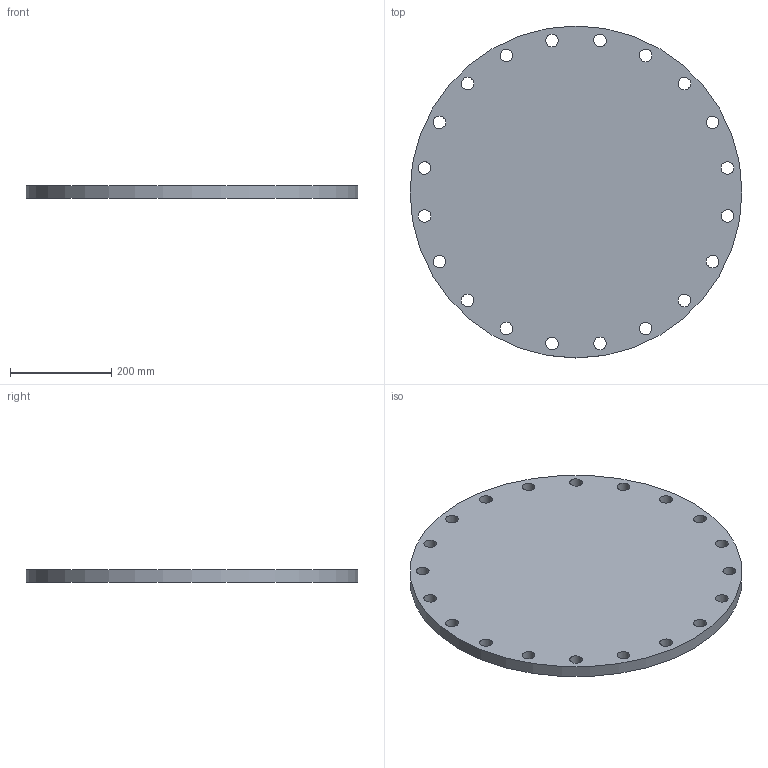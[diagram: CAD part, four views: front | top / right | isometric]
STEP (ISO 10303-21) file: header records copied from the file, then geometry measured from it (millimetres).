
FILE_DESCRIPTION(/* description */ (''),/* implementation_level */ '2;1');
FILE_NAME(/* name */ 'C:\Users\D\Documents\Inventor\HP\JIS\フランジ\JIS 5k bl ff\jis5k-bl-ff-500.stp',/* time_stamp */ '2024-09-12T16:49:18+09:00',/* author */ ('D'),/* organization */ (''),/* preprocessor_version */ 'ST-DEVELOPER v18',/* originating_system */ 'Autodesk Inventor 2020',/* authorisation */ '');
FILE_SCHEMA (('AUTOMOTIVE_DESIGN { 1 0 10303 214 3 1 1 }'));
Length unit declared in the file: millimetre
Products named in the file (1): jis5k-sop-rf-10
Bounding box: 655 x 655 x 24 mm (x, y, z)
Volume: 7851311.3 mm3; surface area: 741360.9 mm2
Topology: 1 solids, 1 shells, 23 faces, 85 edges, 64 vertices
Faces by surface type: cylinder 21, plane 2
Full cylindrical faces by diameter (mm): 25 x20, 655 x1
Entity records: 1100 total; most frequent: DIRECTION 197, CARTESIAN_POINT 173, ORIENTED_EDGE 170, AXIS2_PLACEMENT_3D 88, EDGE_CURVE 85, CIRCLE 64, VERTEX_POINT 64, EDGE_LOOP 63
